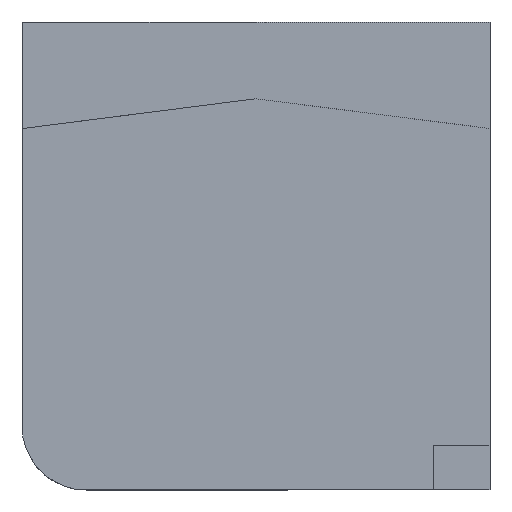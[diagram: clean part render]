
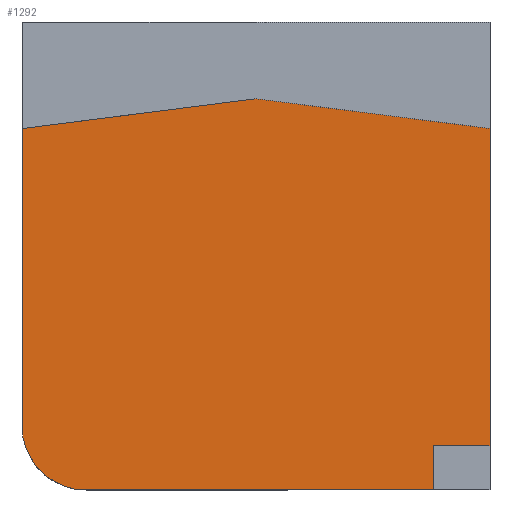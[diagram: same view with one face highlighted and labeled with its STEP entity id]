
A CAD part, front view. The second image highlights one B-rep face of the part: STEP entity #1292.
In plain terms, the highlighted planar face has unit normal (0, -1, 0).
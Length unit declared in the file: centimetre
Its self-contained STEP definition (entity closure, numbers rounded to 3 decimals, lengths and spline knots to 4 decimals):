
#1 = ORIENTED_EDGE ( 'NONE', *, *, #112, .F. ) ;
#18 = EDGE_CURVE ( 'NONE', #87, #882, #54, .T. ) ;
#53 = DIRECTION ( 'NONE',  ( 0., 0., -1. ) ) ;
#54 = CIRCLE ( 'NONE', #1192, 137.0097 ) ;
#87 = VERTEX_POINT ( 'NONE', #973 ) ;
#109 = CARTESIAN_POINT ( 'NONE',  ( 878.9295, 0., 94.1308 ) ) ;
#112 = EDGE_CURVE ( 'NONE', #224, #760, #457, .T. ) ;
#122 = CARTESIAN_POINT ( 'NONE',  ( 137.0097, 0., 0. ) ) ;
#144 = ORIENTED_EDGE ( 'NONE', *, *, #545, .F. ) ;
#160 = CARTESIAN_POINT ( 'NONE',  ( 878.9295, 0., 94.1308 ) ) ;
#167 = ORIENTED_EDGE ( 'NONE', *, *, #18, .T. ) ;
#173 = DIRECTION ( 'NONE',  ( 0., 0., 1. ) ) ;
#194 = LINE ( 'NONE', #1010, #422 ) ;
#197 = EDGE_CURVE ( 'NONE', #1252, #1226, #445, .T. ) ;
#211 = LINE ( 'NONE', #615, #315 ) ;
#214 = VECTOR ( 'NONE', #614, 100. ) ;
#224 = VERTEX_POINT ( 'NONE', #431 ) ;
#228 = CARTESIAN_POINT ( 'NONE',  ( 0., 0., 772.3454 ) ) ;
#241 = DIRECTION ( 'NONE',  ( 0., 0., -1. ) ) ;
#315 = VECTOR ( 'NONE', #1025, 100. ) ;
#319 = VECTOR ( 'NONE', #1157, 100. ) ;
#328 = ORIENTED_EDGE ( 'NONE', *, *, #1284, .T. ) ;
#340 = VECTOR ( 'NONE', #241, 100. ) ;
#360 = LINE ( 'NONE', #160, #340 ) ;
#376 = EDGE_CURVE ( 'NONE', #617, #224, #714, .T. ) ;
#378 = VECTOR ( 'NONE', #53, 100. ) ;
#422 = VECTOR ( 'NONE', #701, 100. ) ;
#424 = ORIENTED_EDGE ( 'NONE', *, *, #197, .F. ) ;
#431 = CARTESIAN_POINT ( 'NONE',  ( 1000., 0., 94.1308 ) ) ;
#435 = EDGE_LOOP ( 'NONE', ( #1089, #515, #424, #912, #167, #328, #144, #1 ) ) ;
#445 = LINE ( 'NONE', #953, #319 ) ;
#457 = LINE ( 'NONE', #855, #1016 ) ;
#482 = AXIS2_PLACEMENT_3D ( 'NONE', #983, #805, #689 ) ;
#515 = ORIENTED_EDGE ( 'NONE', *, *, #1236, .F. ) ;
#545 = EDGE_CURVE ( 'NONE', #760, #1142, #360, .T. ) ;
#589 = FACE_OUTER_BOUND ( 'NONE', #435, .T. ) ;
#614 = DIRECTION ( 'NONE',  ( 0., 0., -1. ) ) ;
#615 = CARTESIAN_POINT ( 'NONE',  ( 1000., 0., 772.3454 ) ) ;
#617 = VERTEX_POINT ( 'NONE', #873 ) ;
#689 = DIRECTION ( 'NONE',  ( 0., 0., 1. ) ) ;
#701 = DIRECTION ( 'NONE',  ( 1., 0., 0. ) ) ;
#714 = LINE ( 'NONE', #1115, #214 ) ;
#739 = CARTESIAN_POINT ( 'NONE',  ( 500., 0., 835.9344 ) ) ;
#760 = VERTEX_POINT ( 'NONE', #109 ) ;
#805 = DIRECTION ( 'NONE',  ( 0., 1., 0. ) ) ;
#855 = CARTESIAN_POINT ( 'NONE',  ( 878.9295, 0., 94.1308 ) ) ;
#873 = CARTESIAN_POINT ( 'NONE',  ( 1000., 0., 772.3454 ) ) ;
#882 = VERTEX_POINT ( 'NONE', #122 ) ;
#912 = ORIENTED_EDGE ( 'NONE', *, *, #1077, .T. ) ;
#953 = CARTESIAN_POINT ( 'NONE',  ( 500., 0., 835.9344 ) ) ;
#965 = DIRECTION ( 'NONE',  ( 0., -1., 0. ) ) ;
#973 = CARTESIAN_POINT ( 'NONE',  ( 0., 0., 137.0097 ) ) ;
#983 = CARTESIAN_POINT ( 'NONE',  ( 0., 0., 1000. ) ) ;
#986 = CARTESIAN_POINT ( 'NONE',  ( 137.0097, 0., 137.0097 ) ) ;
#1010 = CARTESIAN_POINT ( 'NONE',  ( 0., 0., 0. ) ) ;
#1016 = VECTOR ( 'NONE', #1138, 100. ) ;
#1025 = DIRECTION ( 'NONE',  ( 0.992, 0., -0.126 ) ) ;
#1049 = CARTESIAN_POINT ( 'NONE',  ( 0., 0., 1000. ) ) ;
#1077 = EDGE_CURVE ( 'NONE', #1252, #87, #1151, .T. ) ;
#1089 = ORIENTED_EDGE ( 'NONE', *, *, #376, .F. ) ;
#1109 = PLANE ( 'NONE',  #482 ) ;
#1115 = CARTESIAN_POINT ( 'NONE',  ( 1000., 0., 1000. ) ) ;
#1138 = DIRECTION ( 'NONE',  ( -1., 0., 0. ) ) ;
#1142 = VERTEX_POINT ( 'NONE', #1171 ) ;
#1151 = LINE ( 'NONE', #1049, #378 ) ;
#1157 = DIRECTION ( 'NONE',  ( 0.992, 0., 0.126 ) ) ;
#1171 = CARTESIAN_POINT ( 'NONE',  ( 878.9295, 0., 0. ) ) ;
#1192 = AXIS2_PLACEMENT_3D ( 'NONE', #986, #965, #173 ) ;
#1226 = VERTEX_POINT ( 'NONE', #739 ) ;
#1236 = EDGE_CURVE ( 'NONE', #1226, #617, #211, .T. ) ;
#1252 = VERTEX_POINT ( 'NONE', #228 ) ;
#1284 = EDGE_CURVE ( 'NONE', #882, #1142, #194, .T. ) ;
#1292 = ADVANCED_FACE ( 'NONE', ( #589 ), #1109, .F. ) ;
